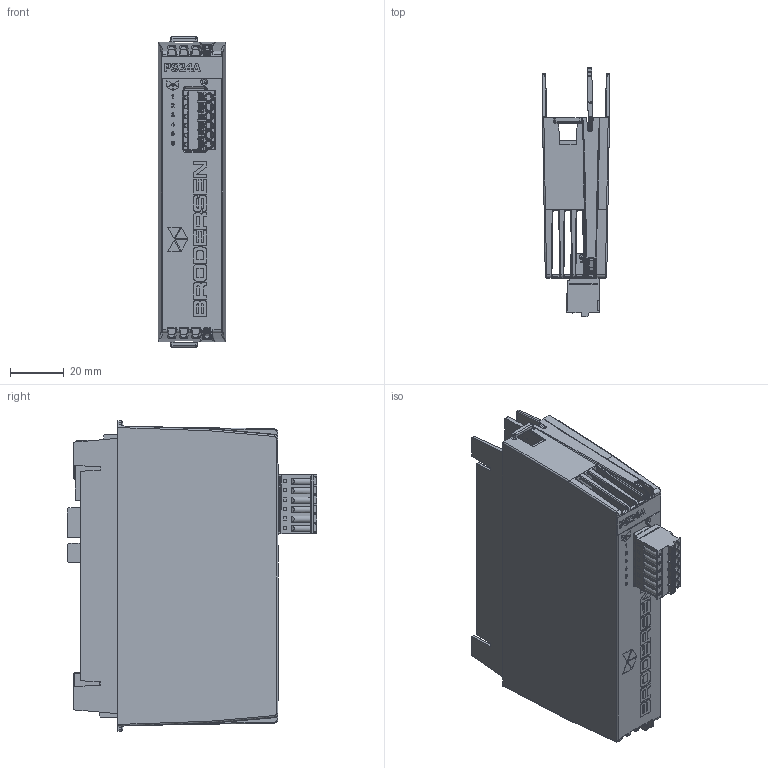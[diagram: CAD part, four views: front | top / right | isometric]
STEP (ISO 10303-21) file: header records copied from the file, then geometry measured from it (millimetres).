
FILE_DESCRIPTION(/* description */ (''),/* implementation_level */ '2;1');
FILE_NAME(/* name */ 'C:\Users\Public\Documents\Autodesk\Inventor 2023\PS24A_Simplified.stp',/* time_stamp */ '2024-10-19T00:04:14+02:00',/* author */ ('shoma'),/* organization */ (''),/* preprocessor_version */ 'ST-DEVELOPER v19',/* originating_system */ 'Autodesk Inventor 2023',/* authorisation */ '');
FILE_SCHEMA (('AUTOMOTIVE_DESIGN { 1 0 10303 214 3 1 1 }'));
Products named in the file (1): PS24A_Simplified
Bounding box: 24.95 x 92.97 x 115.5 mm (x, y, z)
Volume: 92055.9 mm3; surface area: 55299.3 mm2
Topology: 1 solids, 17 shells, 4130 faces, 11402 edges, 7372 vertices
Faces by surface type: plane 3014, cylinder 720, bspline 315, cone 54, sphere 20, torus 7
Full cylindrical faces by diameter (mm): 0.296 x1, 0.3 x150, 0.457 x1, 0.8 x2, 1.17 x6, 1.2 x6, 1.25 x6, 1.3 x10, 1.6 x5, 2.5 x1, 3.1 x6
Entity records: 144469 total; most frequent: CARTESIAN_POINT 34943, ORIENTED_EDGE 22720, DIRECTION 20322, EDGE_CURVE 11360, LINE 9104, VECTOR 9104, VERTEX_POINT 7367, AXIS2_PLACEMENT_3D 5609
